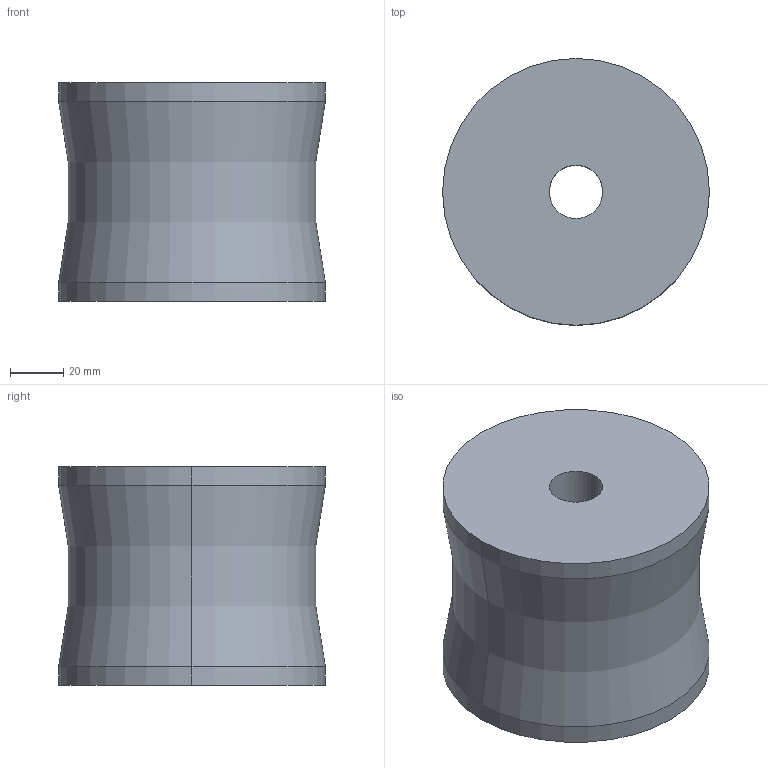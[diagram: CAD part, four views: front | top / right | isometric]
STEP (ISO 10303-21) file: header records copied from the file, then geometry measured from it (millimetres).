
FILE_DESCRIPTION(/* description */ (''),/* implementation_level */ '2;1');
FILE_NAME(/* name */ '3d_ex10208_06505_r00.stp',/* time_stamp */ '2011-01-10T14:15:38+09:00',/* author */ ('MISUMI'),/* organization */ (''),/* preprocessor_version */ 'ST-DEVELOPER v11',/* originating_system */ 'UGS - NX 5.0',/* authorisation */ '');
FILE_SCHEMA (('CONFIG_CONTROL_DESIGN'));
Length unit declared in the file: millimetre
Products named in the file (1): 3d_ex10208_06505_r00
Bounding box: 100 x 100 x 82 mm (x, y, z)
Volume: 562970.6 mm3; surface area: 45040.7 mm2
Topology: 1 solids, 1 shells, 10 faces, 20 edges, 12 vertices
Faces by surface type: cylinder 6, plane 2, torus 2
Entity records: 356 total; most frequent: DIRECTION 56, CARTESIAN_POINT 43, ORIENTED_EDGE 40, AXIS2_PLACEMENT_3D 25, EDGE_CURVE 20, CIRCLE 14, EDGE_LOOP 12, VERTEX_POINT 12
